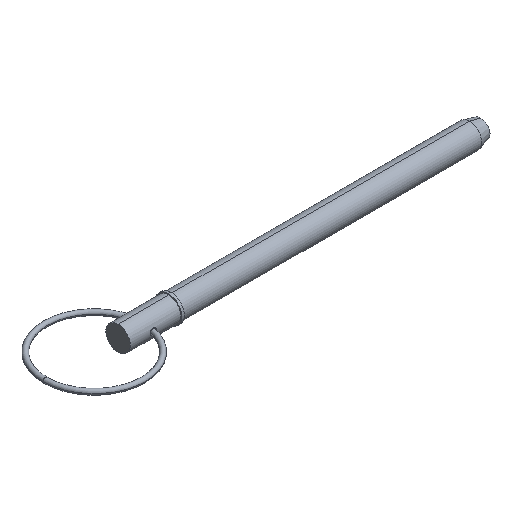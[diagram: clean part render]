
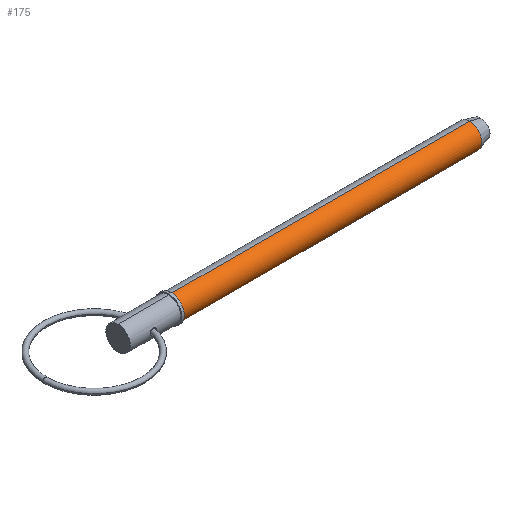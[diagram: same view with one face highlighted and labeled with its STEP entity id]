
A CAD part, isometric view. The second image highlights one B-rep face of the part: STEP entity #175.
In plain terms, the highlighted cylindrical face has radius 5.555 mm (diameter 11.11 mm), a partial arc.
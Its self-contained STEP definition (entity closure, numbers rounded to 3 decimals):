
#4 = VERTEX_POINT ( 'NONE', #492 ) ;
#21 = EDGE_CURVE ( 'NONE', #795, #637, #568, .T. ) ;
#56 = DIRECTION ( 'NONE',  ( 1., 0., 0. ) ) ;
#73 = DIRECTION ( 'NONE',  ( 0., 0., -1. ) ) ;
#77 = ORIENTED_EDGE ( 'NONE', *, *, #161, .T. ) ;
#105 = CARTESIAN_POINT ( 'NONE',  ( 0., 0., -5.555 ) ) ;
#109 = CIRCLE ( 'NONE', #697, 5.555 ) ;
#118 = ORIENTED_EDGE ( 'NONE', *, *, #21, .T. ) ;
#145 = EDGE_LOOP ( 'NONE', ( #872, #77, #118, #865 ) ) ;
#159 = DIRECTION ( 'NONE',  ( 1., 0., 0. ) ) ;
#161 = EDGE_CURVE ( 'NONE', #311, #795, #109, .T. ) ;
#175 = ADVANCED_FACE ( 'NONE', ( #526 ), #686, .T. ) ;
#194 = DIRECTION ( 'NONE',  ( 1., 0., 0. ) ) ;
#304 = LINE ( 'NONE', #623, #732 ) ;
#311 = VERTEX_POINT ( 'NONE', #632 ) ;
#314 = EDGE_CURVE ( 'NONE', #4, #637, #328, .T. ) ;
#328 = CIRCLE ( 'NONE', #358, 5.555 ) ;
#355 = CARTESIAN_POINT ( 'NONE',  ( 0., 0., 0. ) ) ;
#358 = AXIS2_PLACEMENT_3D ( 'NONE', #879, #159, #73 ) ;
#362 = DIRECTION ( 'NONE',  ( 0., 0., -1. ) ) ;
#425 = DIRECTION ( 'NONE',  ( 1., 0., 0. ) ) ;
#442 = DIRECTION ( 'NONE',  ( 0., 0., -1. ) ) ;
#492 = CARTESIAN_POINT ( 'NONE',  ( 160.217, 0., 5.555 ) ) ;
#523 = VECTOR ( 'NONE', #425, 1000. ) ;
#526 = FACE_OUTER_BOUND ( 'NONE', #145, .T. ) ;
#568 = LINE ( 'NONE', #105, #523 ) ;
#623 = CARTESIAN_POINT ( 'NONE',  ( 0., 0., 5.555 ) ) ;
#632 = CARTESIAN_POINT ( 'NONE',  ( 24.13, 0., 5.555 ) ) ;
#637 = VERTEX_POINT ( 'NONE', #656 ) ;
#656 = CARTESIAN_POINT ( 'NONE',  ( 160.217, 0., -5.555 ) ) ;
#686 = CYLINDRICAL_SURFACE ( 'NONE', #830, 5.555 ) ;
#697 = AXIS2_PLACEMENT_3D ( 'NONE', #994, #194, #362 ) ;
#732 = VECTOR ( 'NONE', #789, 1000. ) ;
#789 = DIRECTION ( 'NONE',  ( 1., 0., 0. ) ) ;
#795 = VERTEX_POINT ( 'NONE', #938 ) ;
#830 = AXIS2_PLACEMENT_3D ( 'NONE', #355, #56, #442 ) ;
#865 = ORIENTED_EDGE ( 'NONE', *, *, #314, .F. ) ;
#872 = ORIENTED_EDGE ( 'NONE', *, *, #951, .F. ) ;
#879 = CARTESIAN_POINT ( 'NONE',  ( 160.217, 0., 0. ) ) ;
#938 = CARTESIAN_POINT ( 'NONE',  ( 24.13, 0., -5.555 ) ) ;
#951 = EDGE_CURVE ( 'NONE', #311, #4, #304, .T. ) ;
#994 = CARTESIAN_POINT ( 'NONE',  ( 24.13, 0., 0. ) ) ;
